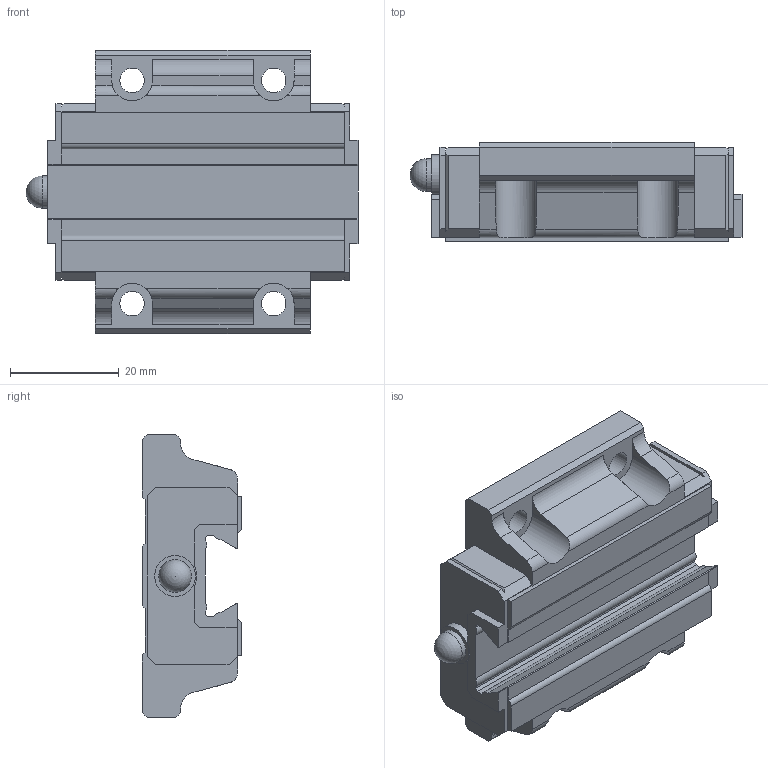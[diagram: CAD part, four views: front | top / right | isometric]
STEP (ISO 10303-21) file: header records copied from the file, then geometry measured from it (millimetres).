
FILE_DESCRIPTION(/* description */ ('STEP AP214'),/* implementation_level */ '2;1');
FILE_NAME(/* name */ 'SR15TB1SS(GK) BLOCK(PB1021B)',/* time_stamp */ '2023-06-01T08:28:42+02:00',/* author */ ('License CC BY-ND 4.0'),/* organization */ ('CADENAS'),/* preprocessor_version */ 'ST-DEVELOPER v19.3',/* originating_system */ 'PARTsolutions',/* authorisation */ ' ');
FILE_SCHEMA (('AUTOMOTIVE_DESIGN {1 0 10303 214 3 1 1}'));
Length unit declared in the file: millimetre
Products named in the file (3): SR15TB1SS(GK) BLOCK(PB1021B); SR-PB1021B_grease_nipple_joint; SR15TBSSPB1021B S
Assembly tree (2 placements, depth 2):
  SR15TB1SS(GK) BLOCK(PB1021B)
    SR-PB1021B_grease_nipple_joint
    SR15TBSSPB1021B S
Bounding box: 61 x 18.2 x 52 mm (x, y, z)
Volume: 34041.5 mm3; surface area: 10257.6 mm2
Topology: 2 solids, 2 shells, 147 faces, 420 edges, 280 vertices
Faces by surface type: plane 111, cylinder 35, sphere 1
Full cylindrical faces by diameter (mm): 4 x3, 4.5 x4, 6 x1, 7.5 x1
Entity records: 4807 total; most frequent: CARTESIAN_POINT 868, ORIENTED_EDGE 816, DIRECTION 774, EDGE_CURVE 408, LINE 326, VECTOR 326, VERTEX_POINT 278, AXIS2_PLACEMENT_3D 224
